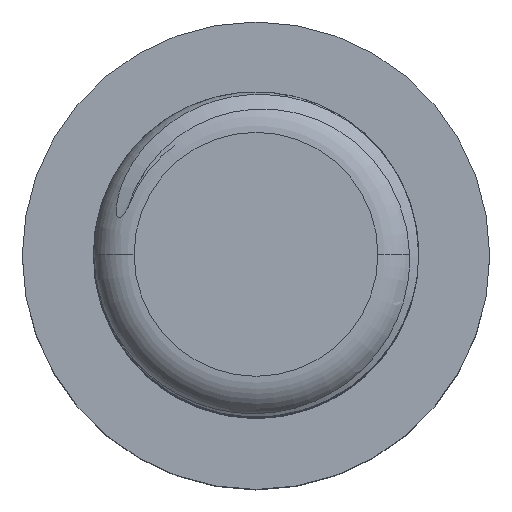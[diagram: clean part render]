
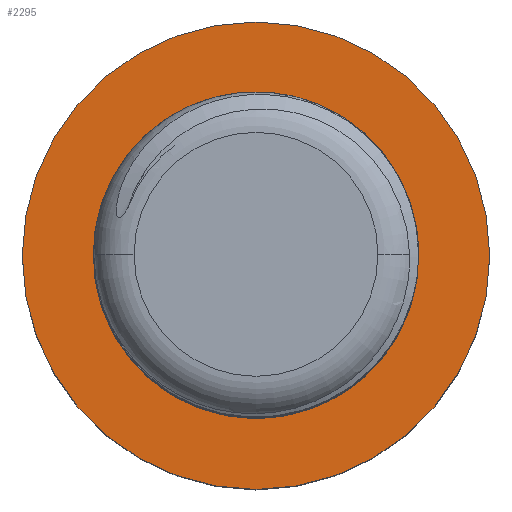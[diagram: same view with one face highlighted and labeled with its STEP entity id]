
A CAD part, top view. The second image highlights one B-rep face of the part: STEP entity #2295.
In plain terms, the highlighted planar face has unit normal (0, 0, 1).
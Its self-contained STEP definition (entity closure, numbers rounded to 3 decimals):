
#69 = CIRCLE ( 'NONE', #202, 5.75 ) ;
#81 = CIRCLE ( 'NONE', #1271, 4. ) ;
#139 = CIRCLE ( 'NONE', #2846, 4. ) ;
#202 = AXIS2_PLACEMENT_3D ( 'NONE', #2485, #1797, #1453 ) ;
#248 = VERTEX_POINT ( 'NONE', #2331 ) ;
#320 = VERTEX_POINT ( 'NONE', #805 ) ;
#471 = EDGE_CURVE ( 'NONE', #3237, #320, #139, .T. ) ;
#805 = CARTESIAN_POINT ( 'NONE',  ( 4., 0., 8. ) ) ;
#981 = DIRECTION ( 'NONE',  ( 1., 0., 0. ) ) ;
#1095 = DIRECTION ( 'NONE',  ( 1., 0., 0. ) ) ;
#1105 = ORIENTED_EDGE ( 'NONE', *, *, #1842, .F. ) ;
#1271 = AXIS2_PLACEMENT_3D ( 'NONE', #3064, #2716, #2373 ) ;
#1307 = CARTESIAN_POINT ( 'NONE',  ( -4., 0., 8. ) ) ;
#1318 = DIRECTION ( 'NONE',  ( 0., 0., 1. ) ) ;
#1428 = DIRECTION ( 'NONE',  ( 0., 0., 1. ) ) ;
#1453 = DIRECTION ( 'NONE',  ( 1., 0., 0. ) ) ;
#1454 = EDGE_LOOP ( 'NONE', ( #1498, #1953 ) ) ;
#1498 = ORIENTED_EDGE ( 'NONE', *, *, #1525, .T. ) ;
#1515 = FACE_OUTER_BOUND ( 'NONE', #1454, .T. ) ;
#1525 = EDGE_CURVE ( 'NONE', #1925, #248, #69, .T. ) ;
#1657 = CARTESIAN_POINT ( 'NONE',  ( 0., 0., 8. ) ) ;
#1718 = EDGE_LOOP ( 'NONE', ( #2354, #1105 ) ) ;
#1755 = DIRECTION ( 'NONE',  ( 1., 0., 0. ) ) ;
#1770 = CARTESIAN_POINT ( 'NONE',  ( 0., 0., 8. ) ) ;
#1797 = DIRECTION ( 'NONE',  ( 0., 0., 1. ) ) ;
#1842 = EDGE_CURVE ( 'NONE', #320, #3237, #81, .T. ) ;
#1925 = VERTEX_POINT ( 'NONE', #3164 ) ;
#1943 = FACE_BOUND ( 'NONE', #1718, .T. ) ;
#1953 = ORIENTED_EDGE ( 'NONE', *, *, #2359, .T. ) ;
#2027 = AXIS2_PLACEMENT_3D ( 'NONE', #1657, #1318, #981 ) ;
#2102 = DIRECTION ( 'NONE',  ( 0., 0., 1. ) ) ;
#2252 = CIRCLE ( 'NONE', #2552, 5.75 ) ;
#2295 = ADVANCED_FACE ( 'NONE', ( #1515, #1943 ), #2346, .T. ) ;
#2331 = CARTESIAN_POINT ( 'NONE',  ( 5.75, 0., 8. ) ) ;
#2346 = PLANE ( 'NONE',  #2027 ) ;
#2354 = ORIENTED_EDGE ( 'NONE', *, *, #471, .F. ) ;
#2359 = EDGE_CURVE ( 'NONE', #248, #1925, #2252, .T. ) ;
#2373 = DIRECTION ( 'NONE',  ( 1., 0., 0. ) ) ;
#2446 = CARTESIAN_POINT ( 'NONE',  ( 0., 0., 8. ) ) ;
#2485 = CARTESIAN_POINT ( 'NONE',  ( 0., 0., 8. ) ) ;
#2552 = AXIS2_PLACEMENT_3D ( 'NONE', #2446, #2102, #1755 ) ;
#2716 = DIRECTION ( 'NONE',  ( 0., 0., 1. ) ) ;
#2846 = AXIS2_PLACEMENT_3D ( 'NONE', #1770, #1428, #1095 ) ;
#3064 = CARTESIAN_POINT ( 'NONE',  ( 0., 0., 8. ) ) ;
#3164 = CARTESIAN_POINT ( 'NONE',  ( -5.75, 0., 8. ) ) ;
#3237 = VERTEX_POINT ( 'NONE', #1307 ) ;
